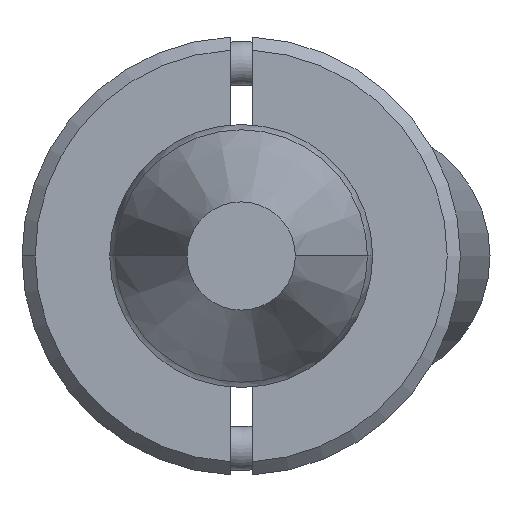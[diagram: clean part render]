
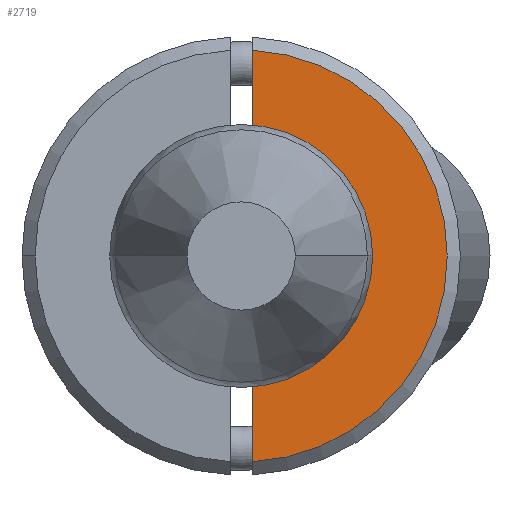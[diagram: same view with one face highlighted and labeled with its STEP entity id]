
A CAD part, front view. The second image highlights one B-rep face of the part: STEP entity #2719.
In plain terms, the highlighted planar face has unit normal (0, -1, 0).
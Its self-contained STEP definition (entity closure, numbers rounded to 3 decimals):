
#104 = AXIS2_PLACEMENT_3D ( 'NONE', #3471, #3146, #1689 ) ;
#141 = CARTESIAN_POINT ( 'NONE',  ( 0., -6., 0. ) ) ;
#170 = CIRCLE ( 'NONE', #104, 2.45 ) ;
#215 = VECTOR ( 'NONE', #252, 1000. ) ;
#252 = DIRECTION ( 'NONE',  ( 1., 0., 0. ) ) ;
#355 = DIRECTION ( 'NONE',  ( 0., 0., -1. ) ) ;
#358 = AXIS2_PLACEMENT_3D ( 'NONE', #1555, #2740, #2140 ) ;
#375 = EDGE_CURVE ( 'NONE', #2751, #3702, #2535, .T. ) ;
#391 = CARTESIAN_POINT ( 'NONE',  ( 0., -6., 0. ) ) ;
#427 = CARTESIAN_POINT ( 'NONE',  ( 4.693, -6., -0.25 ) ) ;
#430 = CARTESIAN_POINT ( 'NONE',  ( -2.437, -6., -0.25 ) ) ;
#451 = CIRCLE ( 'NONE', #2614, 2.45 ) ;
#600 = CARTESIAN_POINT ( 'NONE',  ( 0., -6., -2.45 ) ) ;
#614 = VECTOR ( 'NONE', #3422, 1000. ) ;
#670 = VERTEX_POINT ( 'NONE', #430 ) ;
#702 = EDGE_CURVE ( 'NONE', #2078, #3702, #734, .T. ) ;
#734 = CIRCLE ( 'NONE', #2454, 4.7 ) ;
#814 = ORIENTED_EDGE ( 'NONE', *, *, #2056, .T. ) ;
#969 = DIRECTION ( 'NONE',  ( 0., 0., -1. ) ) ;
#1041 = FACE_OUTER_BOUND ( 'NONE', #1982, .T. ) ;
#1328 = DIRECTION ( 'NONE',  ( 0., 1., 0. ) ) ;
#1363 = ORIENTED_EDGE ( 'NONE', *, *, #1670, .T. ) ;
#1555 = CARTESIAN_POINT ( 'NONE',  ( -5., -6., 0. ) ) ;
#1670 = EDGE_CURVE ( 'NONE', #2751, #1860, #451, .T. ) ;
#1689 = DIRECTION ( 'NONE',  ( 0., 0., -1. ) ) ;
#1693 = LINE ( 'NONE', #2581, #215 ) ;
#1860 = VERTEX_POINT ( 'NONE', #600 ) ;
#1898 = CARTESIAN_POINT ( 'NONE',  ( -5., -6., -0.25 ) ) ;
#1931 = PLANE ( 'NONE',  #358 ) ;
#1982 = EDGE_LOOP ( 'NONE', ( #3711, #3018, #3355, #1363, #814 ) ) ;
#2056 = EDGE_CURVE ( 'NONE', #1860, #670, #170, .T. ) ;
#2078 = VERTEX_POINT ( 'NONE', #2862 ) ;
#2140 = DIRECTION ( 'NONE',  ( 0., 0., -1. ) ) ;
#2454 = AXIS2_PLACEMENT_3D ( 'NONE', #391, #3627, #969 ) ;
#2535 = LINE ( 'NONE', #1898, #614 ) ;
#2581 = CARTESIAN_POINT ( 'NONE',  ( -5., -6., -0.25 ) ) ;
#2614 = AXIS2_PLACEMENT_3D ( 'NONE', #141, #1328, #355 ) ;
#2719 = ADVANCED_FACE ( 'NONE', ( #1041 ), #1931, .T. ) ;
#2740 = DIRECTION ( 'NONE',  ( 0., -1., 0. ) ) ;
#2751 = VERTEX_POINT ( 'NONE', #2814 ) ;
#2814 = CARTESIAN_POINT ( 'NONE',  ( 2.437, -6., -0.25 ) ) ;
#2862 = CARTESIAN_POINT ( 'NONE',  ( -4.693, -6., -0.25 ) ) ;
#3018 = ORIENTED_EDGE ( 'NONE', *, *, #702, .T. ) ;
#3146 = DIRECTION ( 'NONE',  ( 0., 1., 0. ) ) ;
#3355 = ORIENTED_EDGE ( 'NONE', *, *, #375, .F. ) ;
#3422 = DIRECTION ( 'NONE',  ( 1., 0., 0. ) ) ;
#3471 = CARTESIAN_POINT ( 'NONE',  ( 0., -6., 0. ) ) ;
#3524 = EDGE_CURVE ( 'NONE', #2078, #670, #1693, .T. ) ;
#3627 = DIRECTION ( 'NONE',  ( 0., -1., 0. ) ) ;
#3702 = VERTEX_POINT ( 'NONE', #427 ) ;
#3711 = ORIENTED_EDGE ( 'NONE', *, *, #3524, .F. ) ;
